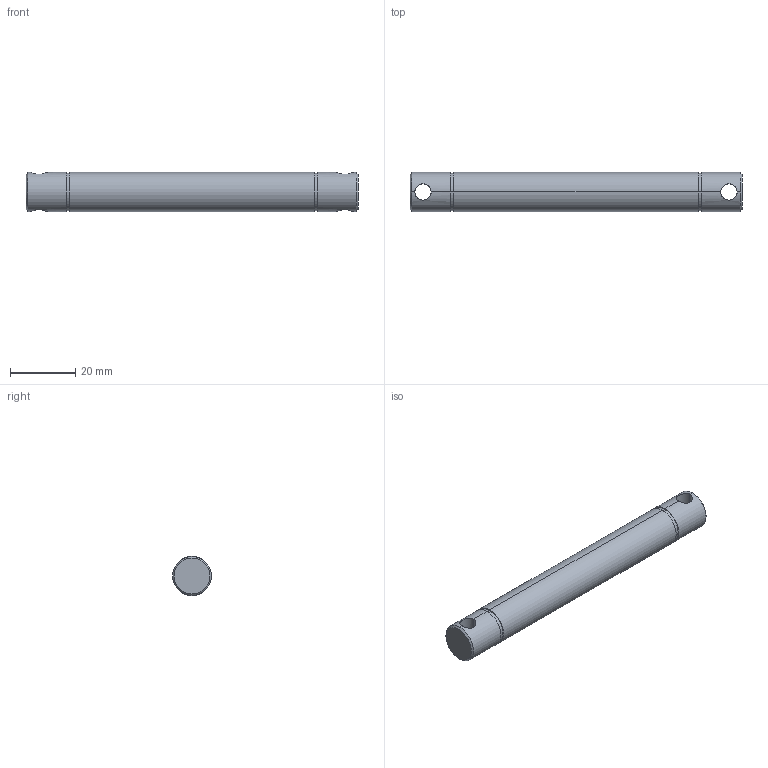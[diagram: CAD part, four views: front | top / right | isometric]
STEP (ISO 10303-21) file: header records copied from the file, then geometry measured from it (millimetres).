
FILE_DESCRIPTION (( 'STEP AP214' ), '1' );
FILE_NAME ('084.030.111.STEP', '2021-02-05T15:34:54', ( '' ), ( '' ), 'SwSTEP 2.0', 'SolidWorks 2018', '' );
FILE_SCHEMA (( 'AUTOMOTIVE_DESIGN' ));
Length unit declared in the file: millimetre
Products named in the file (1): 084.030.111
Bounding box: 102 x 12 x 12 mm (x, y, z)
Volume: 11045.7 mm3; surface area: 4361.9 mm2
Topology: 1 solids, 1 shells, 24 faces, 54 edges, 32 vertices
Faces by surface type: cylinder 14, plane 6, cone 4
Entity records: 976 total; most frequent: CARTESIAN_POINT 351, DIRECTION 120, ORIENTED_EDGE 108, EDGE_CURVE 54, AXIS2_PLACEMENT_3D 49, VERTEX_POINT 32, EDGE_LOOP 28, FACE_OUTER_BOUND 24
